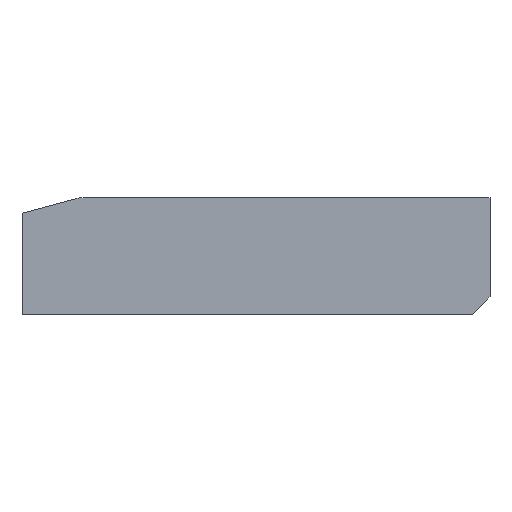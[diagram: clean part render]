
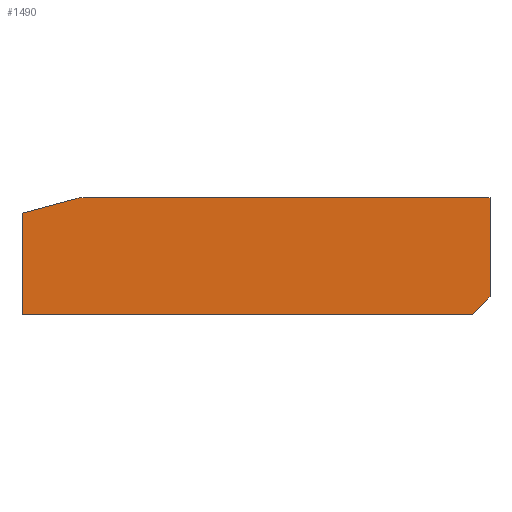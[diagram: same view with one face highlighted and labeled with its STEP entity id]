
A CAD part, left-side view. The second image highlights one B-rep face of the part: STEP entity #1490.
In plain terms, the highlighted planar face has unit normal (-1, 0, 0).
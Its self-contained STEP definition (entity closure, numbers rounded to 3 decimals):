
#31 = EDGE_CURVE ( 'NONE', #3012, #2280, #459, .T. ) ;
#98 = VECTOR ( 'NONE', #3133, 1000. ) ;
#103 = CARTESIAN_POINT ( 'NONE',  ( 0., 34.671, 20. ) ) ;
#136 = ORIENTED_EDGE ( 'NONE', *, *, #31, .F. ) ;
#200 = DIRECTION ( 'NONE',  ( 0., -1., 0. ) ) ;
#270 = VECTOR ( 'NONE', #1595, 1000. ) ;
#281 = CARTESIAN_POINT ( 'NONE',  ( 0., 0., 11.5 ) ) ;
#326 = EDGE_CURVE ( 'NONE', #447, #1967, #1342, .T. ) ;
#346 = LINE ( 'NONE', #2332, #2983 ) ;
#447 = VERTEX_POINT ( 'NONE', #1809 ) ;
#459 = LINE ( 'NONE', #2656, #2954 ) ;
#462 = VECTOR ( 'NONE', #1975, 1000. ) ;
#482 = CARTESIAN_POINT ( 'NONE',  ( 0., 80., 17.321 ) ) ;
#579 = AXIS2_PLACEMENT_3D ( 'NONE', #595, #673, #2604 ) ;
#595 = CARTESIAN_POINT ( 'NONE',  ( 0., 80., 0. ) ) ;
#608 = ORIENTED_EDGE ( 'NONE', *, *, #720, .F. ) ;
#620 = VERTEX_POINT ( 'NONE', #837 ) ;
#673 = DIRECTION ( 'NONE',  ( -1., 0., 0. ) ) ;
#720 = EDGE_CURVE ( 'NONE', #3106, #1775, #346, .T. ) ;
#837 = CARTESIAN_POINT ( 'NONE',  ( 0., 0., 20. ) ) ;
#854 = VECTOR ( 'NONE', #200, 1000. ) ;
#872 = ORIENTED_EDGE ( 'NONE', *, *, #2048, .F. ) ;
#904 = ORIENTED_EDGE ( 'NONE', *, *, #1833, .T. ) ;
#991 = ORIENTED_EDGE ( 'NONE', *, *, #326, .F. ) ;
#1103 = LINE ( 'NONE', #281, #462 ) ;
#1160 = EDGE_CURVE ( 'NONE', #1967, #620, #2174, .T. ) ;
#1233 = CARTESIAN_POINT ( 'NONE',  ( 0., 3., 0. ) ) ;
#1342 = CIRCLE ( 'NONE', #2329, 5. ) ;
#1490 = ADVANCED_FACE ( 'NONE', ( #1952 ), #1646, .T. ) ;
#1539 = EDGE_CURVE ( 'NONE', #3106, #2280, #1984, .T. ) ;
#1544 = CARTESIAN_POINT ( 'NONE',  ( 0., 69.342, 15. ) ) ;
#1554 = DIRECTION ( 'NONE',  ( 1., 0., 0. ) ) ;
#1569 = DIRECTION ( 'NONE',  ( 0., -1., 0. ) ) ;
#1595 = DIRECTION ( 'NONE',  ( 0., -0.966, 0.259 ) ) ;
#1646 = PLANE ( 'NONE',  #579 ) ;
#1772 = ORIENTED_EDGE ( 'NONE', *, *, #1539, .T. ) ;
#1775 = VERTEX_POINT ( 'NONE', #482 ) ;
#1809 = CARTESIAN_POINT ( 'NONE',  ( 0., 70.636, 19.83 ) ) ;
#1833 = EDGE_CURVE ( 'NONE', #3012, #620, #1103, .T. ) ;
#1952 = FACE_OUTER_BOUND ( 'NONE', #2580, .T. ) ;
#1967 = VERTEX_POINT ( 'NONE', #3041 ) ;
#1975 = DIRECTION ( 'NONE',  ( 0., 0., 1. ) ) ;
#1984 = LINE ( 'NONE', #3119, #98 ) ;
#2006 = CARTESIAN_POINT ( 'NONE',  ( 0., 75.318, 18.575 ) ) ;
#2048 = EDGE_CURVE ( 'NONE', #1775, #447, #2767, .T. ) ;
#2174 = LINE ( 'NONE', #103, #854 ) ;
#2266 = CARTESIAN_POINT ( 'NONE',  ( 0., 80., 0. ) ) ;
#2280 = VERTEX_POINT ( 'NONE', #1233 ) ;
#2329 = AXIS2_PLACEMENT_3D ( 'NONE', #1544, #1554, #1569 ) ;
#2332 = CARTESIAN_POINT ( 'NONE',  ( 0., 80., 8.66 ) ) ;
#2519 = DIRECTION ( 'NONE',  ( 0., 0., 1. ) ) ;
#2580 = EDGE_LOOP ( 'NONE', ( #904, #2743, #991, #872, #608, #1772, #136 ) ) ;
#2604 = DIRECTION ( 'NONE',  ( 0., 0., 1. ) ) ;
#2656 = CARTESIAN_POINT ( 'NONE',  ( 0., 1.5, 1.5 ) ) ;
#2743 = ORIENTED_EDGE ( 'NONE', *, *, #1160, .F. ) ;
#2767 = LINE ( 'NONE', #2006, #270 ) ;
#2797 = DIRECTION ( 'NONE',  ( 0., 0.707, -0.707 ) ) ;
#2884 = CARTESIAN_POINT ( 'NONE',  ( 0., 0., 3. ) ) ;
#2954 = VECTOR ( 'NONE', #2797, 1000. ) ;
#2983 = VECTOR ( 'NONE', #2519, 1000. ) ;
#3012 = VERTEX_POINT ( 'NONE', #2884 ) ;
#3041 = CARTESIAN_POINT ( 'NONE',  ( 0., 69.342, 20. ) ) ;
#3106 = VERTEX_POINT ( 'NONE', #2266 ) ;
#3119 = CARTESIAN_POINT ( 'NONE',  ( 0., 41.5, 0. ) ) ;
#3133 = DIRECTION ( 'NONE',  ( 0., -1., 0. ) ) ;
